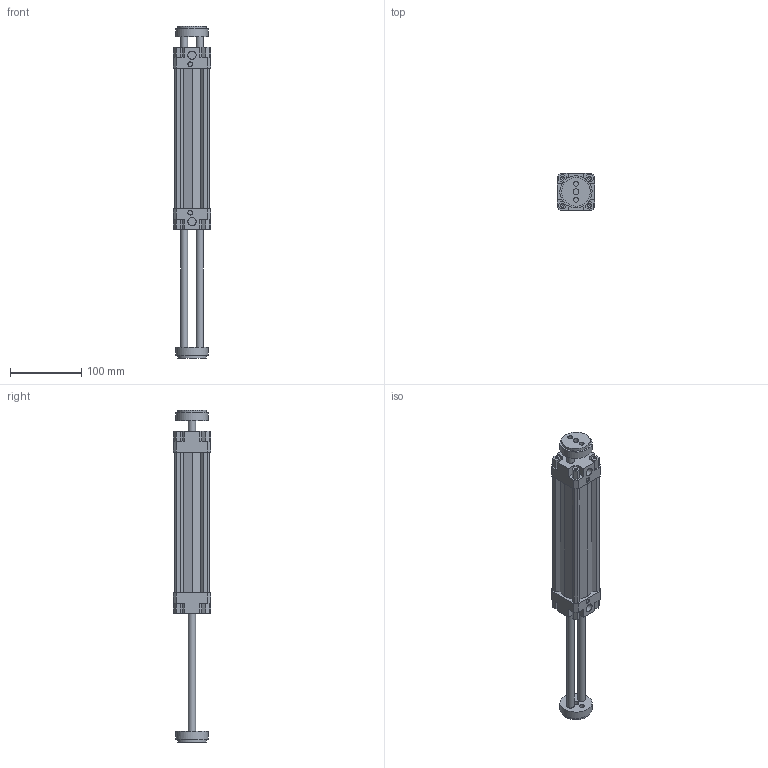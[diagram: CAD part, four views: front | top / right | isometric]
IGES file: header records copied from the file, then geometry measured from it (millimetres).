
Global section: file name: 132#_040_0150_06; native system: Autodesk Inventor 2014; preprocessor: unknown; author: A. Manieri; date: 20161006.154835; units: millimetre
Bounding box: 52 x 52 x 465 mm (x, y, z)
Volume: 428737.1 mm3; surface area: 140744.9 mm2
Topology: 2 solids, 2 shells, 190 faces, 518 edges, 354 vertices
Faces by surface type: bspline 190
